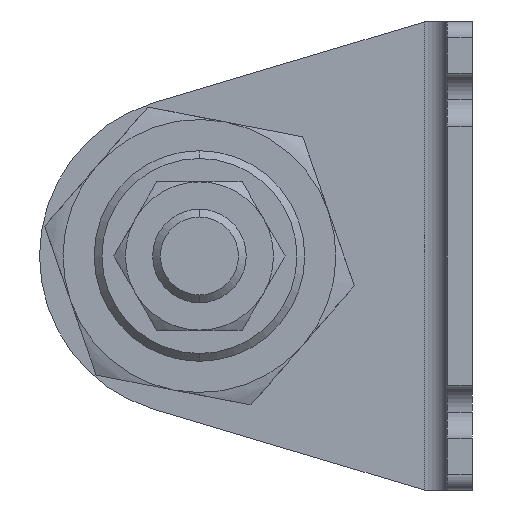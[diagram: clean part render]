
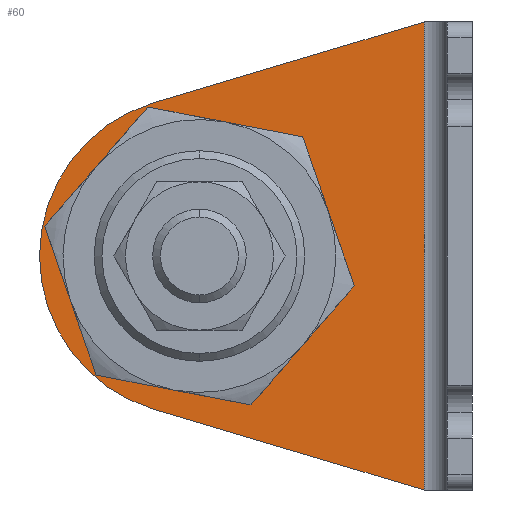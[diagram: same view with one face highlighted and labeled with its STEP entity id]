
A CAD part, left-side view. The second image highlights one B-rep face of the part: STEP entity #60.
In plain terms, the highlighted planar face has unit normal (-1, 0, 0) as drawn and (1, 0, 0) by its records, which use the part's own axes.
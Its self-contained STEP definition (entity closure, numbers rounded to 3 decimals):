
#32 = CARTESIAN_POINT ( 'NONE',  ( 3.2, 35., -30. ) ) ;
#60 = ADVANCED_FACE ( 'NONE', ( #2929, #3303 ), #2223, .T. ) ;
#202 = VERTEX_POINT ( 'NONE', #3163 ) ;
#237 = CIRCLE ( 'NONE', #1786, 20.5 ) ;
#246 = ORIENTED_EDGE ( 'NONE', *, *, #3184, .T. ) ;
#307 = EDGE_CURVE ( 'NONE', #716, #4392, #237, .T. ) ;
#334 = DIRECTION ( 'NONE',  ( 0., 0., -1. ) ) ;
#434 = DIRECTION ( 'NONE',  ( 0., 1., 0. ) ) ;
#463 = CARTESIAN_POINT ( 'NONE',  ( 3.2, 35., -30. ) ) ;
#691 = VERTEX_POINT ( 'NONE', #1491 ) ;
#697 = ORIENTED_EDGE ( 'NONE', *, *, #766, .T. ) ;
#716 = VERTEX_POINT ( 'NONE', #4085 ) ;
#731 = DIRECTION ( 'NONE',  ( 0., 1., 0. ) ) ;
#766 = EDGE_CURVE ( 'NONE', #691, #3322, #3164, .T. ) ;
#797 = DIRECTION ( 'NONE',  ( 0., 0.958, -0.286 ) ) ;
#948 = EDGE_CURVE ( 'NONE', #4392, #1494, #1314, .T. ) ;
#1046 = CIRCLE ( 'NONE', #1397, 13.5 ) ;
#1057 = CARTESIAN_POINT ( 'NONE',  ( 3.2, 21.5, -30. ) ) ;
#1109 = ORIENTED_EDGE ( 'NONE', *, *, #3467, .F. ) ;
#1201 = DIRECTION ( 'NONE',  ( 1., 0., 0. ) ) ;
#1314 = CIRCLE ( 'NONE', #3654, 20.5 ) ;
#1385 = DIRECTION ( 'NONE',  ( 0., 1., 0. ) ) ;
#1397 = AXIS2_PLACEMENT_3D ( 'NONE', #463, #3558, #731 ) ;
#1482 = VECTOR ( 'NONE', #334, 1000. ) ;
#1491 = CARTESIAN_POINT ( 'NONE',  ( 3.2, 6.2, 0. ) ) ;
#1494 = VERTEX_POINT ( 'NONE', #3362 ) ;
#1563 = DIRECTION ( 'NONE',  ( 0., 1., 0. ) ) ;
#1593 = CIRCLE ( 'NONE', #3111, 13.5 ) ;
#1662 = CARTESIAN_POINT ( 'NONE',  ( 3.2, 55.5, -30. ) ) ;
#1688 = EDGE_CURVE ( 'NONE', #4399, #202, #1046, .T. ) ;
#1693 = CARTESIAN_POINT ( 'NONE',  ( 3.2, 19.903, -4.094 ) ) ;
#1786 = AXIS2_PLACEMENT_3D ( 'NONE', #32, #1201, #3743 ) ;
#1809 = CARTESIAN_POINT ( 'NONE',  ( 3.2, 6.2, -60. ) ) ;
#2024 = EDGE_LOOP ( 'NONE', ( #246, #2761, #2325, #1109, #697 ) ) ;
#2208 = DIRECTION ( 'NONE',  ( 1., 0., 0. ) ) ;
#2223 = PLANE ( 'NONE',  #4365 ) ;
#2325 = ORIENTED_EDGE ( 'NONE', *, *, #948, .T. ) ;
#2537 = ORIENTED_EDGE ( 'NONE', *, *, #1688, .F. ) ;
#2660 = CARTESIAN_POINT ( 'NONE',  ( 3.2, 3.2, -60. ) ) ;
#2739 = CARTESIAN_POINT ( 'NONE',  ( 3.2, 6.2, -60. ) ) ;
#2761 = ORIENTED_EDGE ( 'NONE', *, *, #307, .T. ) ;
#2929 = FACE_BOUND ( 'NONE', #4103, .T. ) ;
#2948 = VECTOR ( 'NONE', #797, 1000. ) ;
#3066 = CARTESIAN_POINT ( 'NONE',  ( 3.2, 35., -30. ) ) ;
#3111 = AXIS2_PLACEMENT_3D ( 'NONE', #3888, #3982, #434 ) ;
#3163 = CARTESIAN_POINT ( 'NONE',  ( 3.2, 48.5, -30. ) ) ;
#3164 = LINE ( 'NONE', #2739, #1482 ) ;
#3184 = EDGE_CURVE ( 'NONE', #3322, #716, #4196, .T. ) ;
#3218 = DIRECTION ( 'NONE',  ( 1., 0., 0. ) ) ;
#3303 = FACE_OUTER_BOUND ( 'NONE', #2024, .T. ) ;
#3322 = VERTEX_POINT ( 'NONE', #1809 ) ;
#3362 = CARTESIAN_POINT ( 'NONE',  ( 3.2, 40.868, -10.358 ) ) ;
#3467 = EDGE_CURVE ( 'NONE', #691, #1494, #3616, .T. ) ;
#3558 = DIRECTION ( 'NONE',  ( 1., 0., 0. ) ) ;
#3616 = LINE ( 'NONE', #1693, #2948 ) ;
#3654 = AXIS2_PLACEMENT_3D ( 'NONE', #3066, #2208, #1385 ) ;
#3743 = DIRECTION ( 'NONE',  ( 0., 1., 0. ) ) ;
#3753 = EDGE_CURVE ( 'NONE', #202, #4399, #1593, .T. ) ;
#3806 = ORIENTED_EDGE ( 'NONE', *, *, #3753, .F. ) ;
#3858 = DIRECTION ( 'NONE',  ( 0., 0.958, 0.286 ) ) ;
#3888 = CARTESIAN_POINT ( 'NONE',  ( 3.2, 35., -30. ) ) ;
#3982 = DIRECTION ( 'NONE',  ( 1., 0., 0. ) ) ;
#4006 = CARTESIAN_POINT ( 'NONE',  ( 3.2, 3.446, -60.823 ) ) ;
#4085 = CARTESIAN_POINT ( 'NONE',  ( 3.2, 40.868, -49.642 ) ) ;
#4103 = EDGE_LOOP ( 'NONE', ( #3806, #2537 ) ) ;
#4108 = VECTOR ( 'NONE', #3858, 1000. ) ;
#4196 = LINE ( 'NONE', #4006, #4108 ) ;
#4365 = AXIS2_PLACEMENT_3D ( 'NONE', #2660, #3218, #1563 ) ;
#4392 = VERTEX_POINT ( 'NONE', #1662 ) ;
#4399 = VERTEX_POINT ( 'NONE', #1057 ) ;
